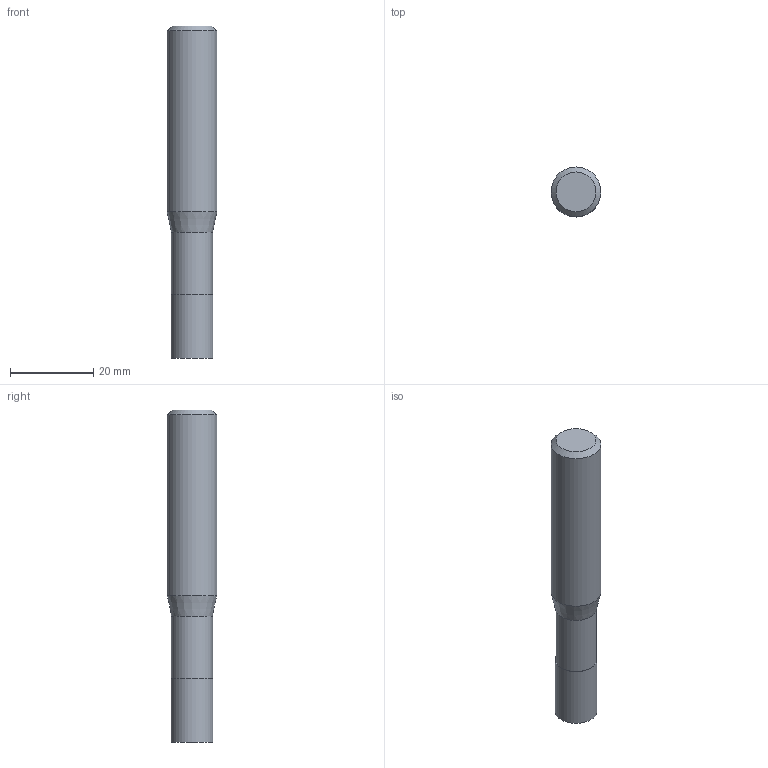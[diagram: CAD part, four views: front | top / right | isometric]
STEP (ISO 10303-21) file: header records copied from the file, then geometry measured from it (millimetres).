
FILE_DESCRIPTION((''),'2;1');
FILE_NAME('C:\Users\nsx150\AppData\Local\Temp\Mastercam 2021\EUJSUNXURU\TEMP.step','2021-04-22T10:29:59',(''),(''),'STEP Write','Mastercam 2021 ... CNC Software, Inc.','');
FILE_SCHEMA(('AUTOMOTIVE_DESIGN'));
Length unit declared in the file: millimetre
Products named in the file (1): None
Bounding box: 12 x 12 x 80 mm (x, y, z)
Volume: 7883.7 mm3; surface area: 3135 mm2
Topology: 2 solids, 2 shells, 9 faces, 12 edges, 7 vertices
Faces by surface type: plane 4, cylinder 3, cone 2
Full cylindrical faces by diameter (mm): 9.9 x1, 10.1 x1, 12 x1
Entity records: 211 total; most frequent: DIRECTION 36, CARTESIAN_POINT 25, AXIS2_PLACEMENT_3D 18, ORIENTED_EDGE 14, EDGE_LOOP 14, STYLED_ITEM 12, ADVANCED_FACE 9, FACE_BOUND 8
